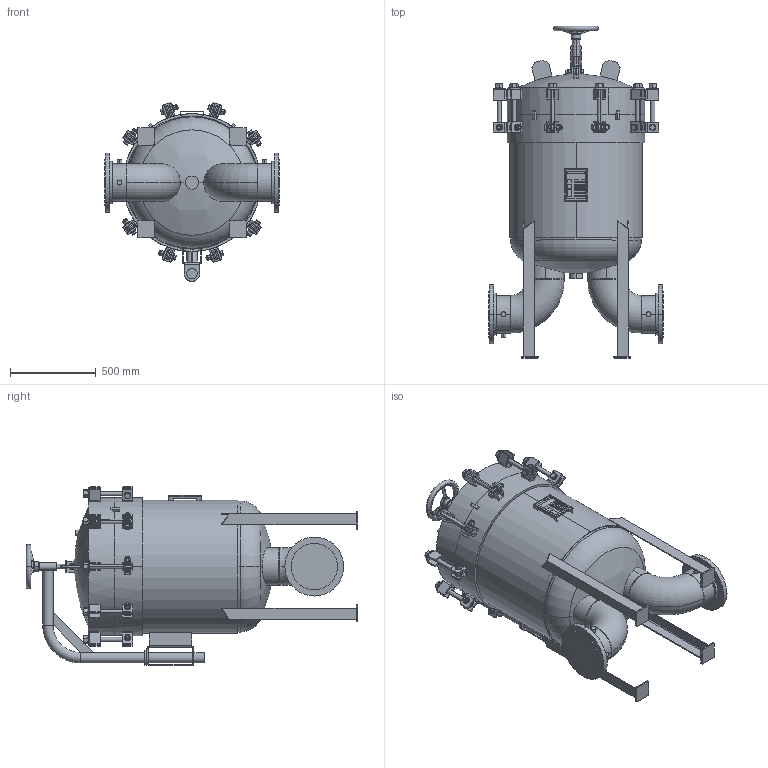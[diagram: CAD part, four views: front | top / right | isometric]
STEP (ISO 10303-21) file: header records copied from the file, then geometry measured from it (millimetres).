
FILE_DESCRIPTION (( 'STEP AP203' ), '1' );
FILE_NAME ('002005-00219.step', '2026-01-06T18:32:40', ( '' ), ( '' ), 'SwSTEP 2.0', 'SolidWorks 2023', '' );
FILE_SCHEMA (( 'CONFIG_CONTROL_DESIGN' ));
Length unit declared in the file: inch
Products named in the file (1): 002005-00219
Bounding box: 1016 x 1931.9 x 1040.52 mm (x, y, z)
Volume: 245921617.6 mm3; surface area: 10731160.8 mm2
Topology: 39 solids, 39 shells, 2005 faces, 4818 edges, 3022 vertices
Faces by surface type: plane 872, cylinder 557, cone 426, torus 100, bspline 36, sphere 14
Entity records: 66677 total; most frequent: CARTESIAN_POINT 20313, DIRECTION 9750, ORIENTED_EDGE 9612, EDGE_CURVE 4806, AXIS2_PLACEMENT_3D 3872, VERTEX_POINT 3022, EDGE_LOOP 2190, LINE 2006
